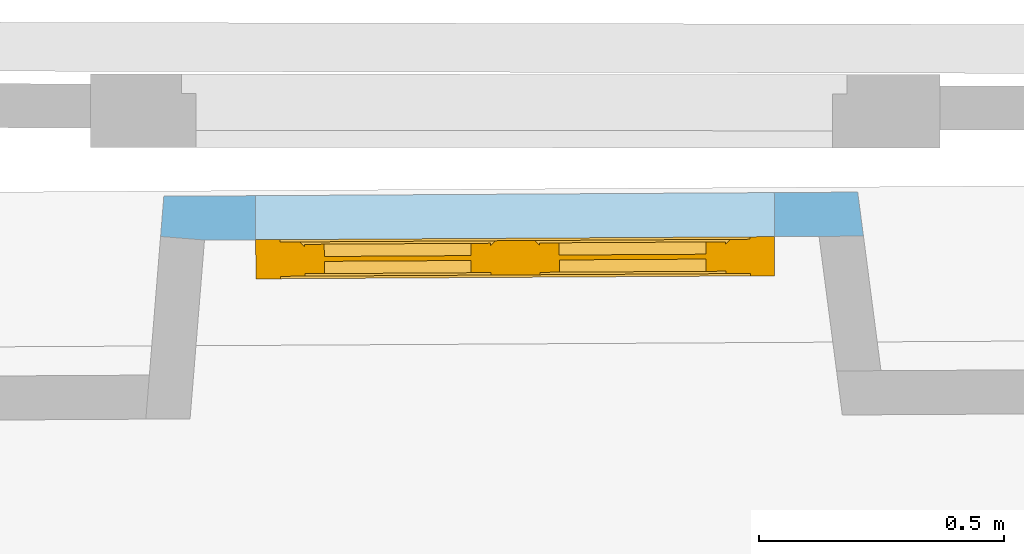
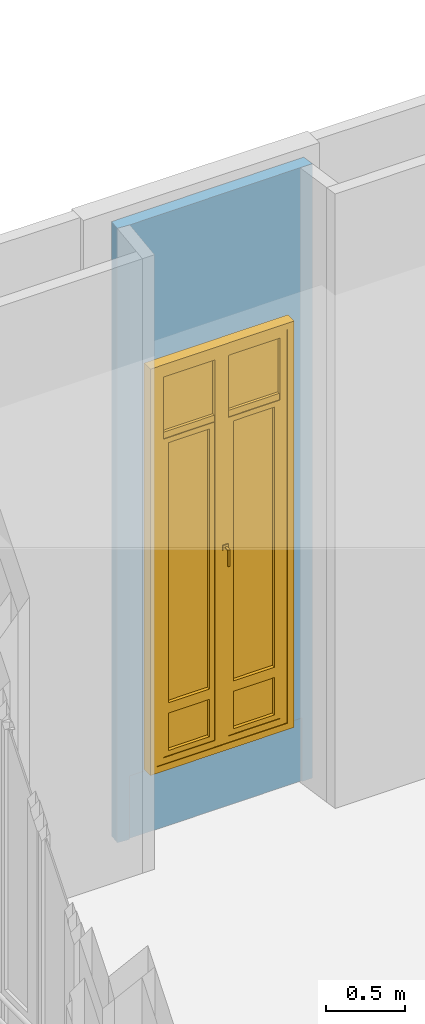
# One storey, part 64 of 97: 1 window, 2 openings, plus 1 element that does not belong to this part.
"""IFC2X3 building model written with IfcOpenShell, lengths in centimetres."""

from ifc_helpers import new_model, entity, si_unit, converted_unit, direction, frame, origin, origin_with_axes, place, context, subcontext, project, spatial, polyline, outline, extrude, faceted_brep, shape, source, transform, mapped, material, material_list, layer, layer_set, layer_usage, type_object, element, fill, save


model = new_model("IFC2X3")

# Units and contexts
model_context = context("Model", 3, precision=0.0001, world=origin(), true_north=direction((0.225632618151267, 0.974212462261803, 0.0)))
body_context = subcontext(model_context, "Body", "Model", "MODEL_VIEW")
footprint_context = subcontext(model_context, "FootPrint", "Model", "MODEL_VIEW")
profile_context = subcontext(model_context, "Profile", "Model", "MODEL_VIEW")
ifc_project = project(units=[si_unit("LENGTHUNIT", "METRE", prefix="CENTI"), si_unit("AREAUNIT", "SQUARE_METRE", prefix="CENTI"), si_unit("VOLUMEUNIT", "CUBIC_METRE", prefix="CENTI"), converted_unit("PLANEANGLEUNIT", "DEGREE", entity("IfcRatioMeasure", 0.0174532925), si_unit("PLANEANGLEUNIT", "RADIAN"), dimensions=[0, 0, 0, 0, 0, 0, 0])], contexts=[model_context])

# Site, building, storey
site_placement = place(None, origin_with_axes())
site = spatial("IfcSite", under=ifc_project, at=site_placement, Name="Default Site", CompositionType="ELEMENT")
building_placement = place(site_placement, origin_with_axes())
building = spatial("IfcBuilding", under=site, at=building_placement, Name="Default Building", CompositionType="ELEMENT")
storey_placement = place(building_placement, origin_with_axes())
storey = spatial("IfcBuildingStorey", under=building, at=storey_placement, Name="Rez-de-chaussée", CompositionType="ELEMENT", Elevation=0.0)

# Wall, openings, window
ifc_material_1 = material(Name="<aucun>")
ifc_layer = layer(ifc_material_1, 9.0)
ifc_layer_set = layer_set([ifc_layer], Name="default")
ifc_layer_usage = layer_usage(ifc_layer_set, "AXIS2", "POSITIVE", -4.5)
wall_type = type_object("IfcWallType", Name="default 90", PredefinedType="NOTDEFINED", material=ifc_layer_set)
wall_placement = place(storey_placement, frame((-1022.27411921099, 734.070073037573, 0.0128503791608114), z_axis=(0.0, 0.0, 1.0), x_axis=(0.999982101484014, 0.00598303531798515, 0.0)))
wall = element("IfcWallStandardCase", 1, at=wall_placement, inside=storey, type_object=wall_type, material=ifc_layer_usage, Name="Enveloppe 667195", context=body_context, shape_type="SweptSolid", body=[
    extrude(outline(polyline([(-4.92583096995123, -3.72202359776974), (4.04048113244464, -4.49999999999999), (138.662245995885, -4.49999999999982), (137.543370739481, 4.49999999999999), (-4.21243394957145, 4.4999999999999), (-4.92583096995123, -3.72202359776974)])), origin_with_axes(), (0.0, 0.0, 1.0), 477.795358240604),
])
opening_1_placement = place(wall_placement, frame((3.86591403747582, -1.13686837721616e-13, 0.0), z_axis=(0.0, 0.0, 1.0), x_axis=(-1.0, -1.13017234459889e-15, 0.0)))
cartesian_point_1 = entity("IfcCartesianPoint", [0.0, -8.88178419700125e-14, 49.5])
cartesian_point_2 = entity("IfcCartesianPoint", [-127.260088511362, -4.50000000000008])
element("IfcOpeningElement", 2, at=opening_1_placement, cuts=wall, Name="Baie 30044", ObjectType="Recess", shapes=[
    shape(body_context, "Body", "Brep", [faceted_brep([(2.8816631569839e-05, 24.5000114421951, -4.62607735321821e-10), (-127.26007296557, 24.5000114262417, -4.62607735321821e-10), (-127.26007296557, 24.5000114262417, 49.5000008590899), (2.8816631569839e-05, 24.5000114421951, 49.5000008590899), (2.8819264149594e-05, 3.50001349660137, 49.5000008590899), (2.8819264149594e-05, 3.50001349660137, -4.62607735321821e-10), (-1.60060858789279e-05, 3.50001349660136, -4.62607735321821e-10), (-127.260117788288, 3.50000160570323, -4.62607735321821e-10), (-127.26007296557, 24.4999995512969, -4.62607735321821e-10), (-127.260072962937, 3.50000160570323, -4.62607735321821e-10), (-127.260072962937, 3.50000160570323, 49.5000008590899), (-127.26007296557, 24.4999995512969, 49.5000008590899), (-127.260117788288, 3.50000160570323, 49.5000008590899), (-1.60060858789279e-05, 3.50001349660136, 49.5000008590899), (-1.60060858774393e-05, 3.50000162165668, -4.62607735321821e-10), (-1.60060858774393e-05, 3.50000162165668, 49.5000008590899)], [[[0, 1, 2, 3]], [[3, 4, 5, 0]], [[0, 6, 7, 8]], [[8, 9, 10, 11]], [[11, 12, 13, 3]], [[12, 7, 14, 15]]])]),
    shape(profile_context, "Profile", "GeometricCurveSet", [entity("IfcGeometricCurveSet", [entity("IfcPolyline", [cartesian_point_1, entity("IfcCartesianPoint", [0.0, -8.88178419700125e-14, 0.0]), entity("IfcCartesianPoint", [-127.260088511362, -1.77635683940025e-13, 0.0]), entity("IfcCartesianPoint", [-127.260088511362, -1.77635683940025e-13, 49.5]), cartesian_point_1])])]),
    shape(footprint_context, "FootPrint", "GeometricCurveSet", [entity("IfcGeometricCurveSet", [entity("IfcPolyline", [cartesian_point_2, entity("IfcCartesianPoint", [1.77635683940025e-13, -4.50000000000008]), entity("IfcCartesianPoint", [0.0, 4.49999999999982]), entity("IfcCartesianPoint", [-127.260088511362, 4.49999999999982]), cartesian_point_2])])]),
])
opening_2_placement = place(wall_placement, frame((14.4959660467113, 1.13686837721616e-13, 50.7151902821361), z_axis=(0.0, 0.0, 1.0), x_axis=(-1.0, -1.13017234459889e-15, 0.0)))
cartesian_point_3 = entity("IfcCartesianPoint", [0.0, 0.0, 316.0])
cartesian_point_4 = entity("IfcCartesianPoint", [-106.0, -4.49999999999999])
opening_2 = element("IfcOpeningElement", 3, at=opening_2_placement, cuts=wall, Name="4294966453_11", ObjectType="Opening", shapes=[
    shape(body_context, "Body", "SweptSolid", [extrude(outline(polyline([(0.0, 316.0), (0.0, -1.11022302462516e-14), (106.0, -1.11022302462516e-14), (106.0, 316.0), (0.0, 316.0)])), frame((0.0, -14.5, 0.0), z_axis=(0.0, 1.0, 0.0), x_axis=(-1.0, 0.0, 0.0)), (0.0, 0.0, 1.0), 29.0)]),
    shape(profile_context, "Profile", "GeometricCurveSet", [entity("IfcGeometricCurveSet", [entity("IfcPolyline", [cartesian_point_3, entity("IfcCartesianPoint", [0.0, 0.0, -1.11022302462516e-14]), entity("IfcCartesianPoint", [-106.0, -8.88178419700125e-14, -1.11022302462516e-14]), entity("IfcCartesianPoint", [-106.0, -8.88178419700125e-14, 316.0]), cartesian_point_3])])]),
    shape(footprint_context, "FootPrint", "GeometricCurveSet", [entity("IfcGeometricCurveSet", [entity("IfcPolyline", [cartesian_point_4, entity("IfcCartesianPoint", [0.0, -4.49999999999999]), entity("IfcCartesianPoint", [0.0, 4.49999999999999]), entity("IfcCartesianPoint", [-106.0, 4.4999999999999]), cartesian_point_4])])]),
])
ifc_material_2 = material(Name="Transparent")
ifc_material_3 = material(Name="Blanc trafic")
ifc_material_4 = material(Name="Aluminium satiné")
ifc_material_5 = material(Name="Blanc trafic")
ifc_material_list = material_list([ifc_material_2, ifc_material_3, ifc_material_4, ifc_material_5])
window_style = type_object("IfcWindowStyle", Name="FN[R] 2VB[2V] MM", ConstructionType="NOTDEFINED", OperationType="NOTDEFINED", ParameterTakesPrecedence=False, Sizeable=False, material=ifc_material_list)
shared_shape = source(origin_with_axes(), body_context, "Body", "Brep", [
    faceted_brep([(-47.9999989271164, 310.999989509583, -3.99999991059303), (-47.9999989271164, 310.999989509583, 3.99999991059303), (-47.9999989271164, 5.00000007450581, 3.99999991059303), (-47.9999989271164, 5.00000007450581, -3.99999991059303), (-52.9999971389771, 316.000008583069, 3.99999991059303), (-52.9999971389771, 1.11022302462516e-14, 3.99999991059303), (-52.9999971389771, 316.000008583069, -3.99999991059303), (-52.9999971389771, 1.11022302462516e-14, -3.99999991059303), (47.9999989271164, 5.0000000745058, 3.99999991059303), (47.9999989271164, 5.0000000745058, -3.99999991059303), (52.9999971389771, 1.11022302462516e-14, 3.99999991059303), (47.9999989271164, 5.00000007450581, 3.99999991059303), (52.9999971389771, 1.11022302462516e-14, -3.99999991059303), (47.9999989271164, 5.00000007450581, -3.99999991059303), (47.9999989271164, 310.999989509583, 3.99999991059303), (47.9999989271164, 310.999989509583, -3.99999991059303), (52.9999971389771, 316.000008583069, 3.99999991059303), (52.9999971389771, 316.000008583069, -3.99999991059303)], [[[0, 1, 2, 3]], [[1, 4, 5, 2]], [[4, 6, 7, 5]], [[6, 0, 3, 7]], [[3, 2, 8, 9]], [[2, 5, 10, 11]], [[5, 7, 12, 10]], [[7, 3, 13, 12]], [[13, 11, 14, 15]], [[11, 10, 16, 14]], [[10, 12, 17, 16]], [[12, 13, 15, 17]], [[15, 14, 1, 0]], [[14, 16, 4, 1]], [[16, 17, 6, 4]], [[17, 15, 0, 6]]]),
    faceted_brep([(-43.9999997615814, 306.99999332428, -3.50000001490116), (-43.0000002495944, 305.999994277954, -2.50000050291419), (-43.0000002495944, 10.0000001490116, -2.50000050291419), (-43.9999997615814, 9.00000035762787, -3.50000001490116), (-43.0000007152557, 305.999994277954, -2.5000000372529), (-43.0000007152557, 305.999994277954, 3.50000001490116), (-43.0000007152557, 10.0000001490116, 3.50000001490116), (-43.0000007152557, 10.0000001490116, -2.5000000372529), (-47.9999989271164, 310.999989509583, 3.50000001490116), (-47.9999989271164, 5.00000007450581, 3.50000001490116), (-47.9999989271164, 310.999989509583, -3.50000001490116), (-47.9999989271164, 5.00000007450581, -3.50000001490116), (-43.0000007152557, 10.0000002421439, -2.50000013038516), (-5.00000007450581, 10.0000002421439, -2.50000013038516), (-3.99999991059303, 9.00000035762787, -3.50000001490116), (-5.00000007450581, 10.0000001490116, 3.50000001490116), (-5.00000007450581, 10.0000001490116, -2.5000000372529), (1.0547118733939e-13, 5.00000007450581, 3.50000001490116), (1.0547118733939e-13, 5.00000007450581, -3.50000001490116), (-4.99999998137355, 10.0000001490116, -2.49999994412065), (-4.99999998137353, 305.999994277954, -2.49999994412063), (-3.99999991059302, 306.99999332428, -3.50000001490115), (-5.00000007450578, 305.999994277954, 3.50000001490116), (-5.00000007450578, 305.999994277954, -2.5000000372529), (1.22124532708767e-13, 310.999989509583, 3.50000001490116), (-5.00000007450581, 305.999994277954, 3.50000001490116), (1.22124532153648e-13, 310.999989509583, -3.50000001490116), (1.22124532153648e-13, 310.999989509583, 3.50000001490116), (-3.99999991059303, 306.99999332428, -3.50000001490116), (1.22124532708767e-13, 310.999989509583, -3.50000001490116), (-5.00000007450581, 305.999993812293, -2.5000005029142), (-43.0000007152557, 305.999993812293, -2.5000005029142), (-5.00000007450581, 305.999994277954, -2.5000000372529)], [[[0, 1, 2, 3]], [[4, 5, 6, 7]], [[5, 8, 9, 6]], [[8, 10, 11, 9]], [[10, 0, 3, 11]], [[3, 12, 13, 14]], [[7, 6, 15, 16]], [[6, 9, 17, 15]], [[9, 11, 18, 17]], [[11, 3, 14, 18]], [[14, 19, 20, 21]], [[16, 15, 22, 23]], [[15, 17, 24, 25]], [[17, 18, 26, 27]], [[18, 14, 28, 29]], [[28, 30, 31, 0]], [[32, 25, 5, 4]], [[25, 24, 8, 5]], [[24, 29, 10, 8]], [[29, 28, 0, 10]]]),
    faceted_brep([(-5.00000007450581, 305.999994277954, -0.499999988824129), (-5.00000007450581, 262.350010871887, -0.499999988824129), (-43.0000007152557, 262.350010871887, -0.499999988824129), (-43.0000007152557, 305.999994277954, -0.499999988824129), (-43.0000007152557, 305.999994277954, 0.499999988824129), (-43.0000007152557, 262.350010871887, 0.499999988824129), (-5.00000007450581, 262.350010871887, 0.499999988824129), (-5.00000007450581, 305.999994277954, 0.499999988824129)], [[[0, 1, 2, 3]], [[4, 5, 6, 7]], [[3, 2, 5, 4]], [[2, 1, 6, 5]], [[1, 0, 7, 6]], [[0, 3, 4, 7]]]),
    faceted_brep([(-5.00000007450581, 257.349991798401, 2.5000000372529), (-5.00000007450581, 257.349991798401, -2.5000000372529), (-5.00000007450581, 262.350010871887, -2.5000000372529), (-5.00000007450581, 262.350010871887, 2.5000000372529), (-43.0000007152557, 262.350010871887, 2.5000000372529), (-43.0000007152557, 262.350010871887, -2.5000000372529), (-43.0000007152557, 257.349991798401, -2.5000000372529), (-43.0000007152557, 257.349991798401, 2.5000000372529)], [[[0, 1, 2, 3]], [[4, 5, 6, 7]], [[3, 2, 5, 4]], [[2, 1, 6, 5]], [[1, 0, 7, 6]], [[0, 3, 4, 7]]]),
    faceted_brep([(-38.9999985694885, 253.349995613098, -2.99999993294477), (-38.9999985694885, 253.349995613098, 2.99999993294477), (-38.9999985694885, 51.1025011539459, 2.99999993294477), (-38.9999985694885, 51.1025011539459, -2.99999993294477), (-43.0000007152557, 257.349991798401, 2.99999993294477), (-43.0000007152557, 47.1024990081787, 2.99999993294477), (-43.0000007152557, 257.349991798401, -2.99999993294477), (-43.0000007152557, 47.1024990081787, -2.99999993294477), (-9.00000035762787, 51.1025011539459, 2.99999993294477), (-9.00000035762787, 51.1025011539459, -2.99999993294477), (-5.00000007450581, 47.1024990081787, 2.99999993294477), (-5.00000007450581, 47.1024990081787, -2.99999993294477), (-9.00000035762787, 253.349995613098, 2.99999993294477), (-9.00000035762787, 253.349995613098, -2.99999993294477), (-5.00000007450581, 257.349991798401, 2.99999993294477), (-5.00000007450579, 257.349991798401, -2.99999993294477), (-5.00000007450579, 257.349991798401, 2.99999993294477), (-5.00000007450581, 257.349991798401, -2.99999993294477)], [[[0, 1, 2, 3]], [[1, 4, 5, 2]], [[4, 6, 7, 5]], [[6, 0, 3, 7]], [[3, 2, 8, 9]], [[2, 5, 10, 8]], [[5, 7, 11, 10]], [[7, 3, 9, 11]], [[9, 8, 12, 13]], [[8, 10, 14, 12]], [[10, 11, 15, 16]], [[11, 9, 13, 17]], [[13, 12, 1, 0]], [[12, 14, 4, 1]], [[14, 17, 6, 4]], [[17, 13, 0, 6]]]),
    faceted_brep([(-9.00000035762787, 253.349995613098, -0.499999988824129), (-9.00000035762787, 51.1025011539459, -0.499999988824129), (-38.9999985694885, 51.1025011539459, -0.499999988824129), (-38.9999985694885, 253.349995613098, -0.499999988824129), (-38.9999985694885, 253.349995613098, 0.499999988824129), (-38.9999985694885, 51.1025011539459, 0.499999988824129), (-9.00000035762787, 51.1025011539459, 0.499999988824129), (-9.00000035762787, 253.349995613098, 0.499999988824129), (-9.00000035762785, 253.349995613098, -0.499999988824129), (-9.00000035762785, 253.349995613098, 0.499999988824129)], [[[0, 1, 2, 3]], [[4, 5, 6, 7]], [[3, 2, 5, 4]], [[2, 1, 6, 5]], [[1, 8, 9, 6]], [[0, 3, 4, 7]]]),
    faceted_brep([(-38.9999985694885, 43.1024998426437, -2.99999993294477), (-38.9999985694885, 43.1024998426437, 2.99999993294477), (-38.9999985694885, 14.0000000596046, 2.99999993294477), (-38.9999985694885, 14.0000000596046, -2.99999993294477), (-43.0000007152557, 47.1024990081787, 2.99999993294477), (-43.0000007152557, 10.0000001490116, 2.99999993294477), (-43.0000007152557, 47.1024990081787, -2.99999993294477), (-43.0000007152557, 10.0000001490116, -2.99999993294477), (-9.00000035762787, 14.0000000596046, 2.99999993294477), (-9.00000035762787, 14.0000000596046, -2.99999993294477), (-5.00000007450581, 10.0000001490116, 2.99999993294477), (-5.00000007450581, 10.0000001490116, -2.99999993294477), (-9.00000035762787, 43.1024998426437, 2.99999993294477), (-9.00000035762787, 43.1024998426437, -2.99999993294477), (-5.00000007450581, 47.1024990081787, 2.99999993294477), (-5.00000007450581, 47.1024990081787, -2.99999993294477)], [[[0, 1, 2, 3]], [[1, 4, 5, 2]], [[4, 6, 7, 5]], [[6, 0, 3, 7]], [[3, 2, 8, 9]], [[2, 5, 10, 8]], [[5, 7, 11, 10]], [[7, 3, 9, 11]], [[9, 8, 12, 13]], [[8, 10, 14, 12]], [[10, 11, 15, 14]], [[11, 9, 13, 15]], [[13, 12, 1, 0]], [[12, 14, 4, 1]], [[14, 15, 6, 4]], [[15, 13, 0, 6]]]),
    faceted_brep([(-9.00000035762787, 43.1024998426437, -0.499999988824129), (-9.00000035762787, 14.0000000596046, -0.499999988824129), (-38.9999985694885, 14.0000000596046, -0.499999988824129), (-38.9999985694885, 43.1024998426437, -0.499999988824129), (-38.9999985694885, 43.1024998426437, 0.499999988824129), (-38.9999985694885, 14.0000000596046, 0.499999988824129), (-9.00000035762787, 14.0000000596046, 0.499999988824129), (-9.00000035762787, 43.1024998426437, 0.499999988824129)], [[[0, 1, 2, 3]], [[4, 5, 6, 7]], [[3, 2, 5, 4]], [[2, 1, 6, 5]], [[1, 0, 7, 6]], [[0, 3, 4, 7]]]),
    faceted_brep([(3.99999991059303, 306.99999332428, -3.50000001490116), (4.99999998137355, 305.999994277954, -2.49999994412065), (4.99999998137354, 10.0000001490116, -2.49999994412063), (3.99999991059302, 9.00000035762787, -3.50000001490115), (5.00000007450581, 305.999994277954, -2.5000000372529), (5.00000007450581, 305.999994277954, 3.50000001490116), (5.00000007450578, 10.0000001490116, 3.50000001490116), (5.00000007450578, 10.0000001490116, -2.5000000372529), (1.22124532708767e-13, 310.999989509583, 3.50000001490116), (1.0547118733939e-13, 5.00000007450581, 3.50000001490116), (5.00000007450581, 10.0000001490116, 3.50000001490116), (1.22124532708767e-13, 310.999989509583, -3.50000001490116), (1.05471187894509e-13, 5.00000007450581, -3.50000001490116), (1.05471187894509e-13, 5.00000007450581, 3.50000001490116), (3.99999991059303, 9.00000035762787, -3.50000001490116), (1.0547118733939e-13, 5.00000007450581, -3.50000001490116), (5.00000007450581, 10.0000002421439, -2.50000013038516), (43.0000007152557, 10.0000002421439, -2.50000013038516), (43.9999997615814, 9.00000035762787, -3.50000001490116), (5.00000007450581, 10.0000001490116, -2.5000000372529), (43.0000007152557, 10.0000001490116, 3.50000001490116), (43.0000007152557, 10.0000001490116, -2.5000000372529), (47.9999989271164, 5.00000007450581, 3.50000001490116), (47.9999989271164, 5.00000007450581, -3.50000001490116), (43.0000002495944, 10.0000001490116, -2.50000050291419), (43.0000002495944, 305.999994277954, -2.50000050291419), (43.9999997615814, 306.99999332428, -3.50000001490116), (43.0000007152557, 305.999994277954, 3.50000001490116), (43.0000007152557, 305.999994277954, -2.5000000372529), (47.9999989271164, 310.999989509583, 3.50000001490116), (47.9999989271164, 310.999989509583, -3.50000001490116), (43.0000007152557, 305.999993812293, -2.5000005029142), (5.00000007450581, 305.999993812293, -2.5000005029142)], [[[0, 1, 2, 3]], [[4, 5, 6, 7]], [[5, 8, 9, 10]], [[8, 11, 12, 13]], [[11, 0, 14, 15]], [[14, 16, 17, 18]], [[19, 10, 20, 21]], [[10, 9, 22, 20]], [[9, 15, 23, 22]], [[15, 14, 18, 23]], [[18, 24, 25, 26]], [[21, 20, 27, 28]], [[20, 22, 29, 27]], [[22, 23, 30, 29]], [[23, 18, 26, 30]], [[26, 31, 32, 0]], [[28, 27, 5, 4]], [[27, 29, 8, 5]], [[29, 30, 11, 8]], [[30, 26, 0, 11]]]),
    faceted_brep([(4.50000017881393, 160.000002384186, 3.50000001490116), (4.50000017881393, 155.999994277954, 3.50000001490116), (0.499999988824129, 155.999994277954, 3.50000001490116), (0.499999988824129, 160.000002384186, 3.50000001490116), (0.499999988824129, 160.000002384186, 4.30000014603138), (0.499999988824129, 155.999994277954, 4.30000014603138), (4.50000017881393, 155.999994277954, 4.30000014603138), (4.50000017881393, 160.000002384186, 4.30000014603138)], [[[0, 1, 2, 3]], [[4, 5, 6, 7]], [[3, 2, 5, 4]], [[2, 1, 6, 5]], [[1, 0, 7, 6]], [[0, 3, 4, 7]]]),
    faceted_brep([(3.24999988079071, 158.500003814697, 4.30000014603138), (3.24999988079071, 157.500004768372, 4.30000014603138), (1.75000000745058, 157.500004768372, 4.30000014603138), (1.75000000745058, 158.500003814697, 4.30000014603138), (1.75000000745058, 158.500003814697, 8.29999968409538), (1.75000000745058, 157.500004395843, 7.30000026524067), (3.24999988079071, 157.500004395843, 7.30000026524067), (3.24999988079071, 158.500003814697, 8.29999968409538), (1.75000000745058, 157.500004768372, 7.29999989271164), (3.24999988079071, 157.500004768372, 7.29999989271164)], [[[0, 1, 2, 3]], [[4, 5, 6, 7]], [[3, 2, 8, 4]], [[2, 1, 9, 8]], [[1, 0, 7, 9]], [[0, 3, 4, 7]]]),
    faceted_brep([(3.24999988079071, 158.500003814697, 8.29999968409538), (3.24999988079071, 157.500004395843, 7.30000026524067), (1.75000000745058, 157.500004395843, 7.30000026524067), (1.75000000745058, 158.500003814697, 8.29999968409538), (1.75000000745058, 145.500004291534, 8.29999968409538), (1.75000000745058, 145.500004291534, 7.29999989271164), (3.24999988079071, 145.500004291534, 7.29999989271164), (3.24999988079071, 145.500004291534, 8.29999968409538), (1.75000000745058, 157.500004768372, 7.29999989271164), (3.24999988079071, 157.500004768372, 7.29999989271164)], [[[0, 1, 2, 3]], [[4, 5, 6, 7]], [[3, 8, 5, 4]], [[8, 9, 6, 5]], [[9, 0, 7, 6]], [[0, 3, 4, 7]]]),
    faceted_brep([(43.0000007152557, 305.999994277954, -0.499999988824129), (43.0000007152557, 262.350010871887, -0.499999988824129), (5.00000007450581, 262.350010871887, -0.499999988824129), (5.00000007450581, 305.999994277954, -0.499999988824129), (5.00000007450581, 305.999994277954, 0.499999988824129), (5.00000007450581, 262.350010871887, 0.499999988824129), (43.0000007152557, 262.350010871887, 0.499999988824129), (43.0000007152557, 305.999994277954, 0.499999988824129)], [[[0, 1, 2, 3]], [[4, 5, 6, 7]], [[3, 2, 5, 4]], [[2, 1, 6, 5]], [[1, 0, 7, 6]], [[0, 3, 4, 7]]]),
    faceted_brep([(43.0000007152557, 257.349991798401, 2.5000000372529), (43.0000007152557, 257.349991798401, -2.5000000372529), (43.0000007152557, 262.350010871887, -2.5000000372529), (43.0000007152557, 262.350010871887, 2.5000000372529), (5.00000007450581, 262.350010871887, 2.5000000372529), (5.00000007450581, 262.350010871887, -2.5000000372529), (5.00000007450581, 257.349991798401, -2.5000000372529), (5.00000007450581, 257.349991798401, 2.5000000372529)], [[[0, 1, 2, 3]], [[4, 5, 6, 7]], [[3, 2, 5, 4]], [[2, 1, 6, 5]], [[1, 0, 7, 6]], [[0, 3, 4, 7]]]),
    faceted_brep([(9.00000035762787, 253.349995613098, -2.99999993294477), (9.00000035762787, 253.349995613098, 2.99999993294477), (9.00000035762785, 51.1025011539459, 2.99999993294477), (9.00000035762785, 51.1025011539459, -2.99999993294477), (5.00000007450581, 257.349991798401, 2.99999993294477), (5.00000007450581, 47.1024990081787, 2.99999993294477), (9.00000035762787, 51.1025011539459, 2.99999993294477), (5.00000007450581, 257.349991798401, -2.99999993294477), (5.0000000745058, 47.1024990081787, -2.99999993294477), (5.0000000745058, 47.1024990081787, 2.99999993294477), (9.00000035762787, 51.1025011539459, -2.99999993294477), (5.00000007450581, 47.1024990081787, -2.99999993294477), (38.9999985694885, 51.1025011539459, 2.99999993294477), (38.9999985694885, 51.1025011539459, -2.99999993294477), (43.0000007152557, 47.1024990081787, 2.99999993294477), (43.0000007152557, 47.1024990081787, -2.99999993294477), (38.9999985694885, 253.349995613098, 2.99999993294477), (38.9999985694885, 253.349995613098, -2.99999993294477), (43.0000007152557, 257.349991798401, 2.99999993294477), (43.0000007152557, 257.349991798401, -2.99999993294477)], [[[0, 1, 2, 3]], [[1, 4, 5, 6]], [[4, 7, 8, 9]], [[7, 0, 10, 11]], [[10, 6, 12, 13]], [[6, 5, 14, 12]], [[5, 11, 15, 14]], [[11, 10, 13, 15]], [[13, 12, 16, 17]], [[12, 14, 18, 16]], [[14, 15, 19, 18]], [[15, 13, 17, 19]], [[17, 16, 1, 0]], [[16, 18, 4, 1]], [[18, 19, 7, 4]], [[19, 17, 0, 7]]]),
    faceted_brep([(38.9999985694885, 253.349995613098, -0.499999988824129), (38.9999985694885, 51.1025011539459, -0.499999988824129), (9.00000035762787, 51.1025011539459, -0.499999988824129), (9.00000035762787, 253.349995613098, -0.499999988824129), (9.00000035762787, 253.349995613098, 0.499999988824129), (9.00000035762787, 51.1025011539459, 0.499999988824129), (38.9999985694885, 51.1025011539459, 0.499999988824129), (38.9999985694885, 253.349995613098, 0.499999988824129), (9.00000035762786, 51.1025011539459, -0.499999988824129), (9.00000035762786, 51.1025011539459, 0.499999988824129)], [[[0, 1, 2, 3]], [[4, 5, 6, 7]], [[3, 8, 9, 4]], [[2, 1, 6, 5]], [[1, 0, 7, 6]], [[0, 3, 4, 7]]]),
    faceted_brep([(9.00000035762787, 43.1024998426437, -2.99999993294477), (9.00000035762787, 43.1024998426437, 2.99999993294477), (9.00000035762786, 14.0000000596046, 2.99999993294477), (9.00000035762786, 14.0000000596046, -2.99999993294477), (5.00000007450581, 47.1024990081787, 2.99999993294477), (5.00000007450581, 10.0000001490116, 2.99999993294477), (9.00000035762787, 14.0000000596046, 2.99999993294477), (5.00000007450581, 47.1024990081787, -2.99999993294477), (5.00000007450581, 10.0000001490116, -2.99999993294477), (9.00000035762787, 14.0000000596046, -2.99999993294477), (38.9999985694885, 14.0000000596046, 2.99999993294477), (38.9999985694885, 14.0000000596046, -2.99999993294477), (43.0000007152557, 10.0000001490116, 2.99999993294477), (43.0000007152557, 10.0000001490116, -2.99999993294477), (38.9999985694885, 43.1024998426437, 2.99999993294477), (38.9999985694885, 43.1024998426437, -2.99999993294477), (43.0000007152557, 47.1024990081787, 2.99999993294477), (43.0000007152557, 47.1024990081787, -2.99999993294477)], [[[0, 1, 2, 3]], [[1, 4, 5, 6]], [[4, 7, 8, 5]], [[7, 0, 9, 8]], [[9, 6, 10, 11]], [[6, 5, 12, 10]], [[5, 8, 13, 12]], [[8, 9, 11, 13]], [[11, 10, 14, 15]], [[10, 12, 16, 14]], [[12, 13, 17, 16]], [[13, 11, 15, 17]], [[15, 14, 1, 0]], [[14, 16, 4, 1]], [[16, 17, 7, 4]], [[17, 15, 0, 7]]]),
    faceted_brep([(38.9999985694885, 43.1024998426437, -0.499999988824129), (38.9999985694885, 14.0000000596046, -0.499999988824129), (9.00000035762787, 14.0000000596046, -0.499999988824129), (9.00000035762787, 43.1024998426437, -0.499999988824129), (9.00000035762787, 43.1024998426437, 0.499999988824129), (9.00000035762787, 14.0000000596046, 0.499999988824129), (38.9999985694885, 14.0000000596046, 0.499999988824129), (38.9999985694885, 43.1024998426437, 0.499999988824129), (9.00000035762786, 14.0000000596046, -0.499999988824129), (9.00000035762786, 14.0000000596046, 0.499999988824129)], [[[0, 1, 2, 3]], [[4, 5, 6, 7]], [[3, 8, 9, 4]], [[2, 1, 6, 5]], [[1, 0, 7, 6]], [[0, 3, 4, 7]]]),
])
window_placement = place(opening_2_placement, frame((-106.0, 4.50000000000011, 0.0), z_axis=(0.0, 0.0, 1.0), x_axis=(1.0, 0.0, 0.0)))
window = element("IfcWindow", 4, at=window_placement, inside=storey, type_object=window_style, material=ifc_material_list, Name="Fenêtre 23865", OverallHeight=316.0, OverallWidth=106.0, context=body_context, shape_type="MappedRepresentation", body=[
    mapped(shared_shape, transform((52.9999999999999, 3.99999999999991, 1.11022302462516e-14), x_axis=(-1.0, 0.0, 0.0), y_axis=(0.0, 0.0, 1.0), z_axis=(0.0, 1.0, 0.0), scale=1.0, scale2=1.0, scale3=1.0, uniform=False)),
])
fill(opening_2, window)

save(model, "model.ifc")
